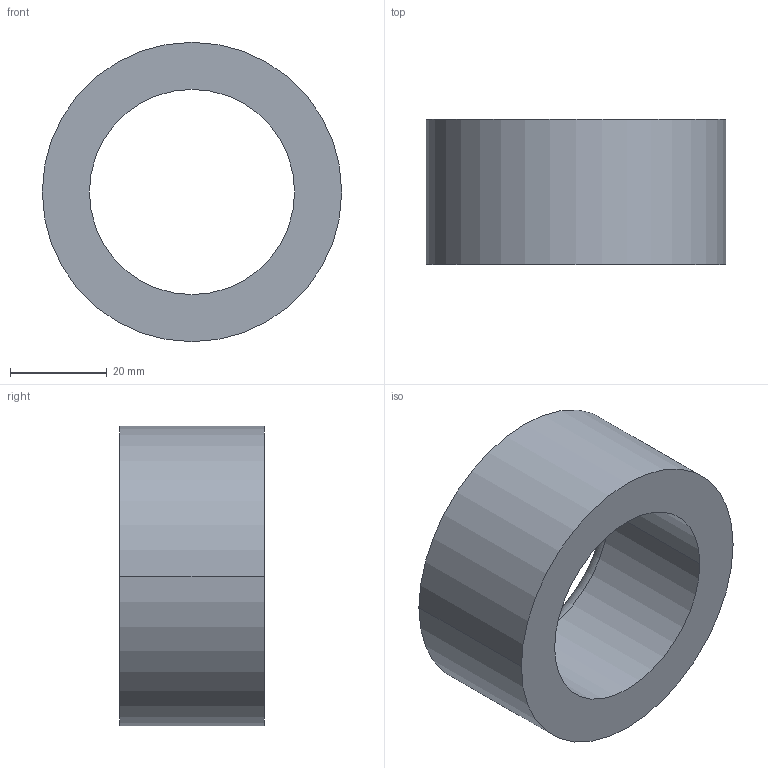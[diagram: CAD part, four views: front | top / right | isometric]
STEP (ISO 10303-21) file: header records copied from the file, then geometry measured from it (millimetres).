
FILE_DESCRIPTION (( 'STEP AP203' ), '1' );
FILE_NAME ('30800.WPP62L42.5.step', '2019-01-23T22:56:22', ( '' ), ( '' ), 'SwSTEP 2.0', 'SolidWorks 2017', '' );
FILE_SCHEMA (( 'CONFIG_CONTROL_DESIGN' ));
Length unit declared in the file: millimetre
Products named in the file (1): 30800.WPP62L42.5
Bounding box: 62 x 30 x 62 mm (x, y, z)
Volume: 47649.4 mm3; surface area: 12854.7 mm2
Topology: 1 solids, 1 shells, 8 faces, 16 edges, 10 vertices
Faces by surface type: cylinder 4, torus 2, plane 2
Entity records: 297 total; most frequent: DIRECTION 46, CARTESIAN_POINT 35, ORIENTED_EDGE 32, AXIS2_PLACEMENT_3D 21, EDGE_CURVE 16, CIRCLE 12, VERTEX_POINT 10, EDGE_LOOP 10
